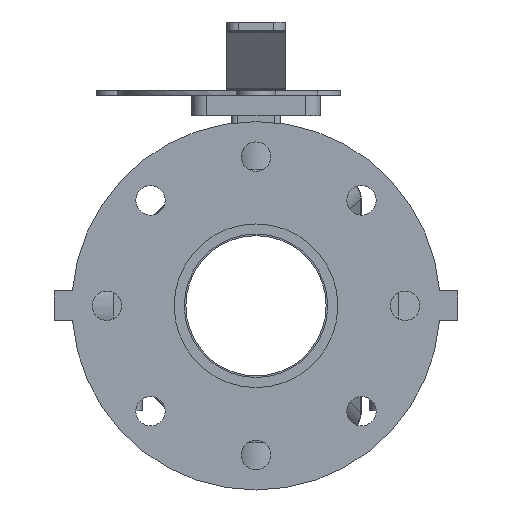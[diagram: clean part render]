
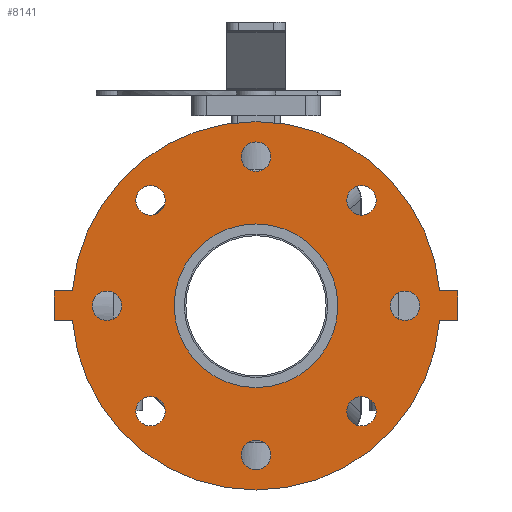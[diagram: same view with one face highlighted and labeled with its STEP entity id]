
A CAD part, front view. The second image highlights one B-rep face of the part: STEP entity #8141.
In plain terms, the highlighted planar face has unit normal (0, -1, 0) as drawn and (0, 0, -1) by its records, which use the part's own axes.
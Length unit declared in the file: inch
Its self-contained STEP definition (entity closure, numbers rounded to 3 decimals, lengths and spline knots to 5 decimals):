
#312=FACE_BOUND('',#1093,.T.);
#313=FACE_BOUND('',#1094,.T.);
#314=FACE_BOUND('',#1095,.T.);
#315=FACE_BOUND('',#1096,.T.);
#316=FACE_BOUND('',#1097,.T.);
#317=FACE_BOUND('',#1098,.T.);
#318=FACE_BOUND('',#1099,.T.);
#319=FACE_BOUND('',#1100,.T.);
#320=FACE_BOUND('',#1101,.T.);
#404=PLANE('',#8796);
#628=FACE_OUTER_BOUND('',#1092,.T.);
#1092=EDGE_LOOP('',(#5222,#5223,#5224,#5225,#5226,#5227,#5228,#5229));
#1093=EDGE_LOOP('',(#5230));
#1094=EDGE_LOOP('',(#5231));
#1095=EDGE_LOOP('',(#5232));
#1096=EDGE_LOOP('',(#5233));
#1097=EDGE_LOOP('',(#5234));
#1098=EDGE_LOOP('',(#5235));
#1099=EDGE_LOOP('',(#5236));
#1100=EDGE_LOOP('',(#5237));
#1101=EDGE_LOOP('',(#5238));
#1627=LINE('',#12211,#2200);
#1630=LINE('',#12217,#2203);
#1633=LINE('',#12222,#2206);
#1635=LINE('',#12227,#2208);
#1639=LINE('',#12234,#2212);
#1641=LINE('',#12237,#2214);
#2200=VECTOR('',#9775,0.3937);
#2203=VECTOR('',#9780,0.3937);
#2206=VECTOR('',#9785,0.3937);
#2208=VECTOR('',#9789,0.3937);
#2212=VECTOR('',#9795,0.3937);
#2214=VECTOR('',#9799,0.3937);
#2761=CIRCLE('',#8758,0.315);
#2763=CIRCLE('',#8761,0.315);
#2765=CIRCLE('',#8764,0.315);
#2767=CIRCLE('',#8767,0.315);
#2769=CIRCLE('',#8770,0.315);
#2771=CIRCLE('',#8773,0.315);
#2773=CIRCLE('',#8776,0.315);
#2775=CIRCLE('',#8779,0.315);
#2776=CIRCLE('',#8781,1.75);
#2778=CIRCLE('',#8784,3.94);
#2781=CIRCLE('',#8788,3.94);
#3198=VERTEX_POINT('',#12140);
#3200=VERTEX_POINT('',#12146);
#3202=VERTEX_POINT('',#12152);
#3204=VERTEX_POINT('',#12158);
#3206=VERTEX_POINT('',#12164);
#3208=VERTEX_POINT('',#12170);
#3210=VERTEX_POINT('',#12176);
#3212=VERTEX_POINT('',#12182);
#3213=VERTEX_POINT('',#12186);
#3215=VERTEX_POINT('',#12192);
#3217=VERTEX_POINT('',#12195);
#3219=VERTEX_POINT('',#12201);
#3222=VERTEX_POINT('',#12206);
#3223=VERTEX_POINT('',#12210);
#3225=VERTEX_POINT('',#12216);
#3227=VERTEX_POINT('',#12225);
#3228=VERTEX_POINT('',#12226);
#3965=EDGE_CURVE('',#3198,#3198,#2761,.T.);
#3968=EDGE_CURVE('',#3200,#3200,#2763,.T.);
#3971=EDGE_CURVE('',#3202,#3202,#2765,.T.);
#3974=EDGE_CURVE('',#3204,#3204,#2767,.T.);
#3977=EDGE_CURVE('',#3206,#3206,#2769,.T.);
#3980=EDGE_CURVE('',#3208,#3208,#2771,.T.);
#3983=EDGE_CURVE('',#3210,#3210,#2773,.T.);
#3986=EDGE_CURVE('',#3212,#3212,#2775,.T.);
#3987=EDGE_CURVE('',#3213,#3213,#2776,.T.);
#3991=EDGE_CURVE('',#3215,#3217,#2778,.T.);
#3997=EDGE_CURVE('',#3222,#3219,#2781,.T.);
#3998=EDGE_CURVE('',#3217,#3223,#1627,.T.);
#4001=EDGE_CURVE('',#3225,#3222,#1630,.T.);
#4004=EDGE_CURVE('',#3223,#3225,#1633,.T.);
#4006=EDGE_CURVE('',#3227,#3228,#1635,.T.);
#4010=EDGE_CURVE('',#3219,#3227,#1639,.T.);
#4012=EDGE_CURVE('',#3228,#3215,#1641,.T.);
#5222=ORIENTED_EDGE('',*,*,#4012,.F.);
#5223=ORIENTED_EDGE('',*,*,#4006,.F.);
#5224=ORIENTED_EDGE('',*,*,#4010,.F.);
#5225=ORIENTED_EDGE('',*,*,#3997,.F.);
#5226=ORIENTED_EDGE('',*,*,#4001,.F.);
#5227=ORIENTED_EDGE('',*,*,#4004,.F.);
#5228=ORIENTED_EDGE('',*,*,#3998,.F.);
#5229=ORIENTED_EDGE('',*,*,#3991,.F.);
#5230=ORIENTED_EDGE('',*,*,#3965,.T.);
#5231=ORIENTED_EDGE('',*,*,#3968,.T.);
#5232=ORIENTED_EDGE('',*,*,#3971,.T.);
#5233=ORIENTED_EDGE('',*,*,#3974,.T.);
#5234=ORIENTED_EDGE('',*,*,#3977,.T.);
#5235=ORIENTED_EDGE('',*,*,#3980,.T.);
#5236=ORIENTED_EDGE('',*,*,#3983,.T.);
#5237=ORIENTED_EDGE('',*,*,#3986,.T.);
#5238=ORIENTED_EDGE('',*,*,#3987,.T.);
#8141=ADVANCED_FACE('',(#628,#312,#313,#314,#315,#316,#317,#318,#319,#320),
#404,.F.);
#8758=AXIS2_PLACEMENT_3D('',#12142,#9699,#9700);
#8761=AXIS2_PLACEMENT_3D('',#12148,#9706,#9707);
#8764=AXIS2_PLACEMENT_3D('',#12154,#9713,#9714);
#8767=AXIS2_PLACEMENT_3D('',#12160,#9720,#9721);
#8770=AXIS2_PLACEMENT_3D('',#12166,#9727,#9728);
#8773=AXIS2_PLACEMENT_3D('',#12172,#9734,#9735);
#8776=AXIS2_PLACEMENT_3D('',#12178,#9741,#9742);
#8779=AXIS2_PLACEMENT_3D('',#12184,#9748,#9749);
#8781=AXIS2_PLACEMENT_3D('',#12187,#9752,#9753);
#8784=AXIS2_PLACEMENT_3D('',#12196,#9760,#9761);
#8788=AXIS2_PLACEMENT_3D('',#12208,#9771,#9772);
#8796=AXIS2_PLACEMENT_3D('',#12240,#9803,#9804);
#9699=DIRECTION('center_axis',(0.,0.,1.));
#9700=DIRECTION('ref_axis',(-0.707,-0.707,0.));
#9706=DIRECTION('center_axis',(0.,0.,1.));
#9707=DIRECTION('ref_axis',(-1.,0.,0.));
#9713=DIRECTION('center_axis',(0.,0.,1.));
#9714=DIRECTION('ref_axis',(-0.707,0.707,0.));
#9720=DIRECTION('center_axis',(0.,0.,1.));
#9721=DIRECTION('ref_axis',(0.,1.,0.));
#9727=DIRECTION('center_axis',(0.,0.,1.));
#9728=DIRECTION('ref_axis',(0.707,0.707,0.));
#9734=DIRECTION('center_axis',(0.,0.,1.));
#9735=DIRECTION('ref_axis',(1.,0.,0.));
#9741=DIRECTION('center_axis',(0.,0.,1.));
#9742=DIRECTION('ref_axis',(0.707,-0.707,0.));
#9748=DIRECTION('center_axis',(0.,0.,1.));
#9749=DIRECTION('ref_axis',(0.,-1.,0.));
#9752=DIRECTION('center_axis',(0.,0.,1.));
#9753=DIRECTION('ref_axis',(0.,-1.,0.));
#9760=DIRECTION('center_axis',(0.,0.,1.));
#9761=DIRECTION('ref_axis',(0.,1.,0.));
#9771=DIRECTION('center_axis',(0.,0.,1.));
#9772=DIRECTION('ref_axis',(0.,1.,0.));
#9775=DIRECTION('',(0.,-1.,0.));
#9780=DIRECTION('',(0.,1.,0.));
#9785=DIRECTION('',(1.,0.,0.));
#9789=DIRECTION('',(-1.,0.,0.));
#9795=DIRECTION('',(0.,1.,0.));
#9799=DIRECTION('',(0.,-1.,0.));
#9803=DIRECTION('center_axis',(0.,0.,1.));
#9804=DIRECTION('ref_axis',(0.,1.,0.));
#12140=CARTESIAN_POINT('',(-2.03293,2.47841,0.));
#12142=CARTESIAN_POINT('Origin',(-2.25567,2.25567,0.));
#12146=CARTESIAN_POINT('',(0.315,3.19,0.));
#12148=CARTESIAN_POINT('Origin',(0.,3.19,0.));
#12152=CARTESIAN_POINT('',(2.47841,2.03293,0.));
#12154=CARTESIAN_POINT('Origin',(2.25567,2.25567,0.));
#12158=CARTESIAN_POINT('',(3.19,-0.315,0.));
#12160=CARTESIAN_POINT('Origin',(3.19,0.,0.));
#12164=CARTESIAN_POINT('',(2.03293,-2.47841,0.));
#12166=CARTESIAN_POINT('Origin',(2.25567,-2.25567,0.));
#12170=CARTESIAN_POINT('',(-0.315,-3.19,0.));
#12172=CARTESIAN_POINT('Origin',(0.,-3.19,0.));
#12176=CARTESIAN_POINT('',(-2.47841,-2.03293,0.));
#12178=CARTESIAN_POINT('Origin',(-2.25567,-2.25567,0.));
#12182=CARTESIAN_POINT('',(-3.19,0.315,0.));
#12184=CARTESIAN_POINT('Origin',(-3.19,0.,0.));
#12186=CARTESIAN_POINT('',(0.,1.75,0.));
#12187=CARTESIAN_POINT('Origin',(0.,0.,0.));
#12192=CARTESIAN_POINT('',(-0.32,3.92698,0.));
#12195=CARTESIAN_POINT('',(-0.32,-3.92698,0.));
#12196=CARTESIAN_POINT('Origin',(0.,0.,0.));
#12201=CARTESIAN_POINT('',(0.32,3.92698,0.));
#12206=CARTESIAN_POINT('',(0.32,-3.92698,0.));
#12208=CARTESIAN_POINT('Origin',(0.,0.,0.));
#12210=CARTESIAN_POINT('',(-0.32,-4.315,0.));
#12211=CARTESIAN_POINT('',(-0.32,-3.92698,0.));
#12216=CARTESIAN_POINT('',(0.32,-4.315,0.));
#12217=CARTESIAN_POINT('',(0.32,-4.315,0.));
#12222=CARTESIAN_POINT('',(-0.32,-4.315,0.));
#12225=CARTESIAN_POINT('',(0.32,4.315,0.));
#12226=CARTESIAN_POINT('',(-0.32,4.315,0.));
#12227=CARTESIAN_POINT('',(0.32,4.315,0.));
#12234=CARTESIAN_POINT('',(0.32,3.92698,0.));
#12237=CARTESIAN_POINT('',(-0.32,4.315,0.));
#12240=CARTESIAN_POINT('Origin',(0.,4.1395,
0.));
